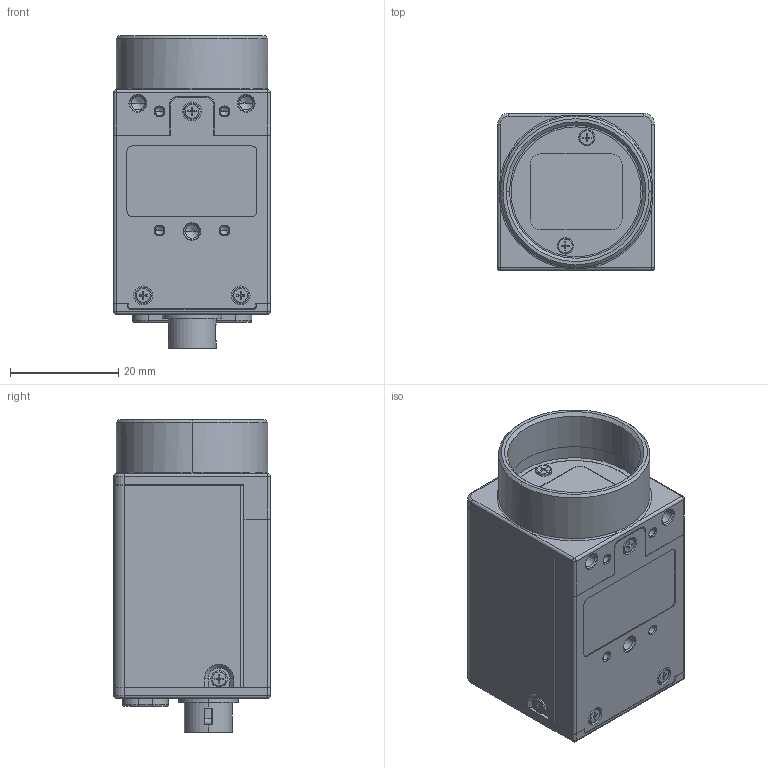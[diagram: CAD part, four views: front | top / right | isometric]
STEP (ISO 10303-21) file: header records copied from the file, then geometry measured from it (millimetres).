
FILE_DESCRIPTION((''),'2;1');
FILE_NAME('GOX-12401C-USB_MOCK_ASM','2021-12-10T17:38:19',('aso'),(''),'CREO PARAMETRIC BY PTC INC, 2019352','CREO PARAMETRIC BY PTC INC, 2019352','');
FILE_SCHEMA(('AUTOMOTIVE_DESIGN { 1 0 10303 214 1 1 1 1 }'));
Length unit declared in the file: millimetre
Products named in the file (1): GOX-12401C-USB_MOCK_ASM
Bounding box: 29.02 x 29 x 57.8 mm (x, y, z)
Volume: 2510.8 mm3; surface area: 14923 mm2
Topology: 9 solids, 24 shells, 1031 faces, 2834 edges, 1840 vertices
Faces by surface type: plane 521, cylinder 357, cone 77, torus 50, sphere 14, bspline 12
Entity records: 43476 total; most frequent: CARTESIAN_POINT 7867, DIRECTION 5660, ORIENTED_EDGE 5530, EDGE_CURVE 2792, PRESENTATION_STYLE_ASSIGNMENT 2209, STYLED_ITEM 2109, AXIS2_PLACEMENT_3D 2016, VERTEX_POINT 1840
